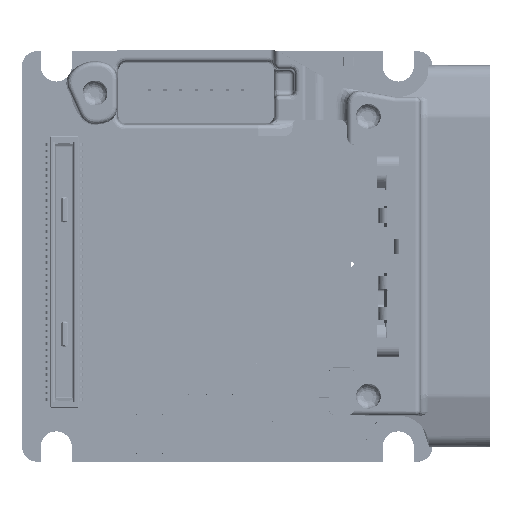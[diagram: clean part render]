
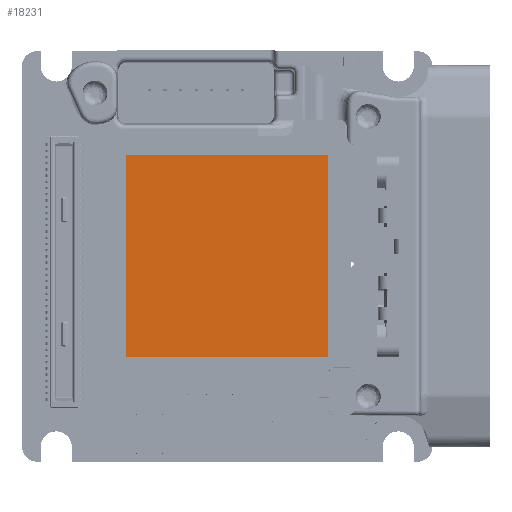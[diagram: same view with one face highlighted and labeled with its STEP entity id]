
A CAD part, top view. The second image highlights one B-rep face of the part: STEP entity #18231.
In plain terms, the highlighted planar face has unit normal (0, 0, 1).
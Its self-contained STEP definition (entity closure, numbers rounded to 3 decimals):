
#18231 = ADVANCED_FACE ( 'NONE', ( #249196 ), #49109, .T. ) ;
#41881 = VECTOR ( 'NONE', #640234, 1000. ) ;
#49109 = PLANE ( 'NONE',  #249235 ) ;
#55015 = CARTESIAN_POINT ( 'NONE',  ( 6.5, 6.5, 6.162 ) ) ;
#63174 = VECTOR ( 'NONE', #73074, 1000. ) ;
#73074 = DIRECTION ( 'NONE',  ( 0., 1., 0. ) ) ;
#85429 = EDGE_CURVE ( 'NONE', #526741, #97180, #297352, .T. ) ;
#97180 = VERTEX_POINT ( 'NONE', #192842 ) ;
#147447 = CARTESIAN_POINT ( 'NONE',  ( 6.5, -6.5, 6.162 ) ) ;
#187246 = CARTESIAN_POINT ( 'NONE',  ( -6.5, -6.5, 6.162 ) ) ;
#192842 = CARTESIAN_POINT ( 'NONE',  ( 6.5, 6.5, 6.162 ) ) ;
#249196 = FACE_OUTER_BOUND ( 'NONE', #530967, .T. ) ;
#249235 = AXIS2_PLACEMENT_3D ( 'NONE', #187246, #660179, #758500 ) ;
#285111 = VERTEX_POINT ( 'NONE', #443259 ) ;
#288670 = ORIENTED_EDGE ( 'NONE', *, *, #642949, .F. ) ;
#297352 = LINE ( 'NONE', #479402, #629080 ) ;
#364535 = EDGE_CURVE ( 'NONE', #97180, #445240, #698343, .T. ) ;
#379010 = LINE ( 'NONE', #553344, #63174 ) ;
#420415 = ORIENTED_EDGE ( 'NONE', *, *, #85429, .F. ) ;
#443259 = CARTESIAN_POINT ( 'NONE',  ( -6.5, -6.5, 6.162 ) ) ;
#445240 = VERTEX_POINT ( 'NONE', #477896 ) ;
#477896 = CARTESIAN_POINT ( 'NONE',  ( 6.5, -6.5, 6.162 ) ) ;
#479402 = CARTESIAN_POINT ( 'NONE',  ( -6.5, 6.5, 6.162 ) ) ;
#496255 = LINE ( 'NONE', #147447, #507985 ) ;
#507985 = VECTOR ( 'NONE', #569711, 1000. ) ;
#526741 = VERTEX_POINT ( 'NONE', #545979 ) ;
#530967 = EDGE_LOOP ( 'NONE', ( #624378, #717873, #420415, #288670 ) ) ;
#545979 = CARTESIAN_POINT ( 'NONE',  ( -6.5, 6.5, 6.162 ) ) ;
#553344 = CARTESIAN_POINT ( 'NONE',  ( -6.5, -6.5, 6.162 ) ) ;
#569711 = DIRECTION ( 'NONE',  ( -1., 0., 0. ) ) ;
#624378 = ORIENTED_EDGE ( 'NONE', *, *, #710069, .F. ) ;
#629080 = VECTOR ( 'NONE', #661652, 1000. ) ;
#640234 = DIRECTION ( 'NONE',  ( 0., -1., 0. ) ) ;
#642949 = EDGE_CURVE ( 'NONE', #285111, #526741, #379010, .T. ) ;
#660179 = DIRECTION ( 'NONE',  ( 0., 0., 1. ) ) ;
#661652 = DIRECTION ( 'NONE',  ( 1., 0., 0. ) ) ;
#698343 = LINE ( 'NONE', #55015, #41881 ) ;
#710069 = EDGE_CURVE ( 'NONE', #445240, #285111, #496255, .T. ) ;
#717873 = ORIENTED_EDGE ( 'NONE', *, *, #364535, .F. ) ;
#758500 = DIRECTION ( 'NONE',  ( 1., 0., 0. ) ) ;
